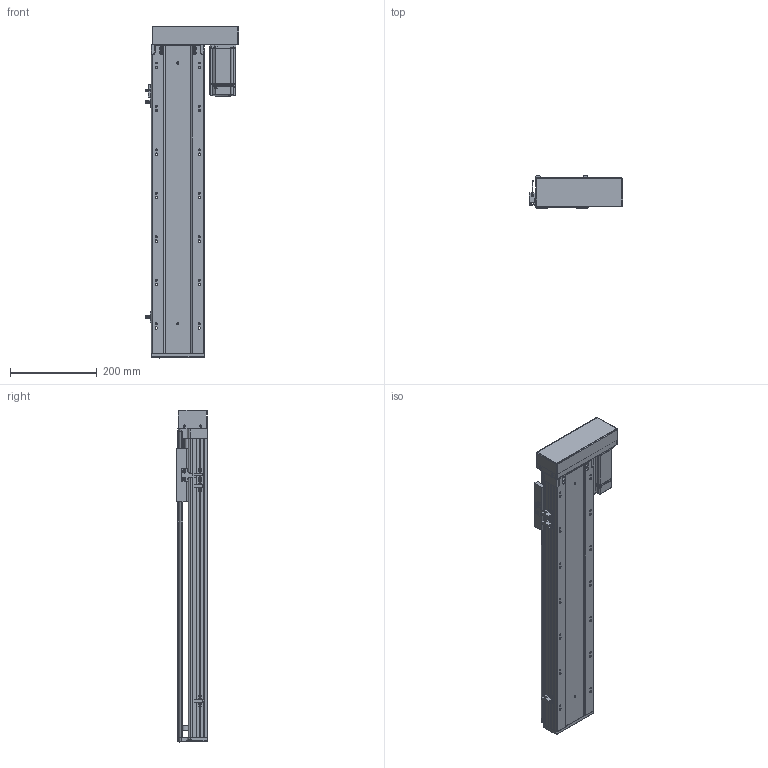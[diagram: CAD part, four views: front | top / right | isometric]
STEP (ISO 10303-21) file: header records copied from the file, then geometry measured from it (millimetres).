
FILE_DESCRIPTION (( 'STEP AP203' ), '1' );
FILE_NAME ('RY120-L1620-300-RK.SLDASM_500.step', '2021-02-22T02:29:51', ( '盈信电脑' ), ( '东莞市道滘镇水果街19号' ), 'SwSTEP 2.0', 'SolidWorks 2012', '' );
FILE_SCHEMA (( 'CONFIG_CONTROL_DESIGN' ));
Products named in the file (14): 侂狟400W侜督萇儂; RY120-L1620-300-RK.SLDASM_500; RY120蛌殏萇儂欶; RY120转拆电端丝杆支撑座; RY120酘殏萇儂假蚾啣; 15; RY120外置感应片(140共用）; 滅袉蝶18-24; 覜茼ん672; 滅袉蝶18-10; RY120綴裔啣; RY120-300-RK蛌殏倰第奻裔啣_500; RY120臏賑輸; RY120-300-RK蛌殏倰第菁釱_500
Assembly tree (16 placements, depth 3):
  RY120-L1620-300-RK.SLDASM_500
    RY120-300-RK蛌殏倰第菁釱_500
    RY120-300-RK蛌殏倰第奻裔啣_500
    RY120臏賑輸
    RY120綴裔啣
    覜茼ん672  x3
    滅袉蝶18-10
    滅袉蝶18-24  x2
    RY120外置感应片(140共用）
    RY120转拆电端丝杆支撑座
    RY120酘殏萇儂假蚾啣
    侂狟400W侜督萇儂
      15
    RY120蛌殏萇儂欶
Bounding box: 214.4 x 73 x 764 mm (x, y, z)
Volume: 2492482.1 mm3; surface area: 881637.4 mm2
Topology: 16 solids, 16 shells, 2392 faces, 6575 edges, 4220 vertices
Faces by surface type: plane 1216, cylinder 876, cone 195, bspline 105
Entity records: 79090 total; most frequent: CARTESIAN_POINT 22213, ORIENTED_EDGE 11886, DIRECTION 10955, EDGE_CURVE 5943, VERTEX_POINT 3888, VECTOR 3709, LINE 3709, AXIS2_PLACEMENT_3D 3623
